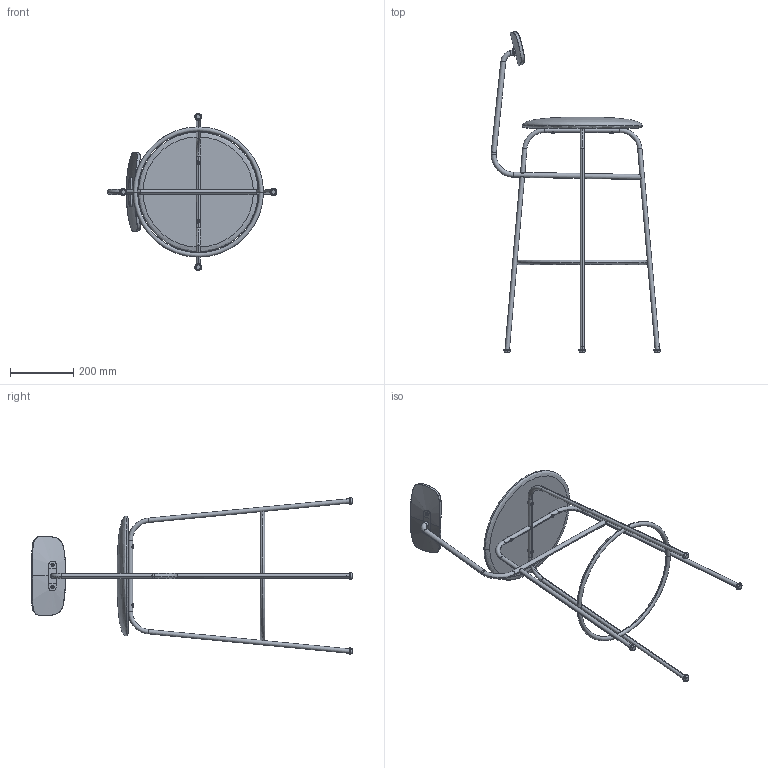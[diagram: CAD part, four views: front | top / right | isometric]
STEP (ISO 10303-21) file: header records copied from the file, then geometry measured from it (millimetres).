
FILE_DESCRIPTION (( 'STEP AP214' ), '1' );
FILE_NAME ('AFR_Bar Chair plywood back.STEP', '2024-01-03T14:34:00', ( '' ), ( '' ), 'SwSTEP 2.0', 'SolidWorks 2022', '' );
FILE_SCHEMA (( 'AUTOMOTIVE_DESIGN' ));
Length unit declared in the file: millimetre
Products named in the file (16): Countersunk m6 25; afteroom bar chair seat frame 1a; Afteroom_Dining_Chair_ply_seat_assem; afteroom bar chair back frame; Back mounting_Default<As Machined>; Skids; socket button head screw_iso_ISO 7380 - M6 x 12 - 12S; Uph_Seat; 1000003; afteroom bar chair seat frame 1b; afteroom bar chair feet disk; afteroom bar chair seat frame 3; AFR_Bar Chair plywood back; afteroom bar chair seat frame 2; Thread for backrest; M6 x 6 mm threaded insert
Assembly tree (30 placements, depth 3):
  AFR_Bar Chair plywood back
    afteroom bar chair seat frame 1a
    afteroom bar chair seat frame 1b
    afteroom bar chair seat frame 2  x2
    afteroom bar chair seat frame 3
    afteroom bar chair back frame
    Back mounting_Default<As Machined>
    Countersunk m6 25  x4
    1000003
    socket button head screw_iso_ISO 7380 - M6 x 12 - 12S  x2
    Thread for backrest  x2
    Skids  x4
    afteroom bar chair feet disk  x4
    Afteroom_Dining_Chair_ply_seat_assem
      M6 x 6 mm threaded insert  x4
    Uph_Seat
Bounding box: 538.35 x 1017.5 x 498.38 mm (x, y, z)
Volume: 3859314.5 mm3; surface area: 745376.5 mm2
Topology: 29 solids, 30 shells, 807 faces, 2020 edges, 1259 vertices
Faces by surface type: cylinder 426, cone 152, plane 124, torus 52, bspline 41, sphere 12
Entity records: 25605 total; most frequent: CARTESIAN_POINT 16518, ORIENTED_EDGE 1836, DIRECTION 1705, EDGE_CURVE 918, AXIS2_PLACEMENT_3D 700, VERTEX_POINT 566, EDGE_LOOP 400, FACE_OUTER_BOUND 372
